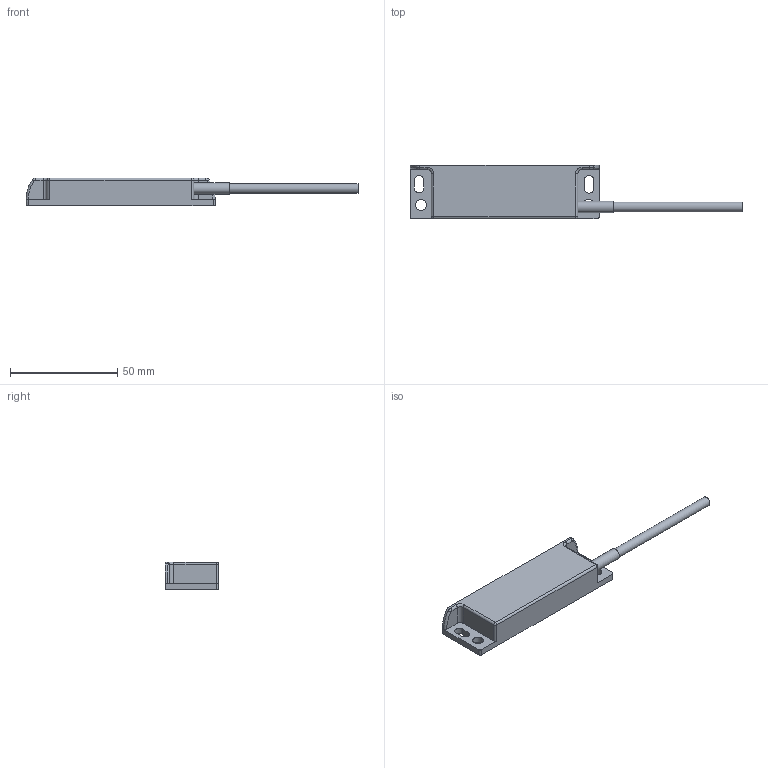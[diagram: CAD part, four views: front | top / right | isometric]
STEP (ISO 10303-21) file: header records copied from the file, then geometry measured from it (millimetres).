
FILE_DESCRIPTION(/* description */ (''),/* implementation_level */ '2;1');
FILE_NAME(/* name */ 'C:\Users\servizio.tecnico\Desktop\SMP2.stp',/* time_stamp */ '2017-11-09T08:32:11+01:00',/* author */ ('servizio.tecnico'),/* organization */ (''),/* preprocessor_version */ 'ST-DEVELOPER v16.1',/* originating_system */ 'Autodesk Inventor 2016',/* authorisation */ '');
FILE_SCHEMA (('AUTOMOTIVE_DESIGN { 1 0 10303 214 3 1 1 }'));
Length unit declared in the file: millimetre
Products named in the file (2): magnete d; SMP2B02S010
Assembly tree (1 placements, depth 2):
  SMP2B02S010
    magnete d
Bounding box: 154.63 x 25 x 13 mm (x, y, z)
Volume: 24974.4 mm3; surface area: 8333.3 mm2
Topology: 1 solids, 1 shells, 49 faces, 121 edges, 74 vertices
Faces by surface type: cylinder 23, plane 18, torus 4, bspline 2, sphere 2
Full cylindrical faces by diameter (mm): 4.5 x1, 5.1 x2, 5.3 x1
Entity records: 1507 total; most frequent: DIRECTION 271, CARTESIAN_POINT 257, ORIENTED_EDGE 230, EDGE_CURVE 115, AXIS2_PLACEMENT_3D 106, VERTEX_POINT 74, EDGE_LOOP 63, LINE 59
